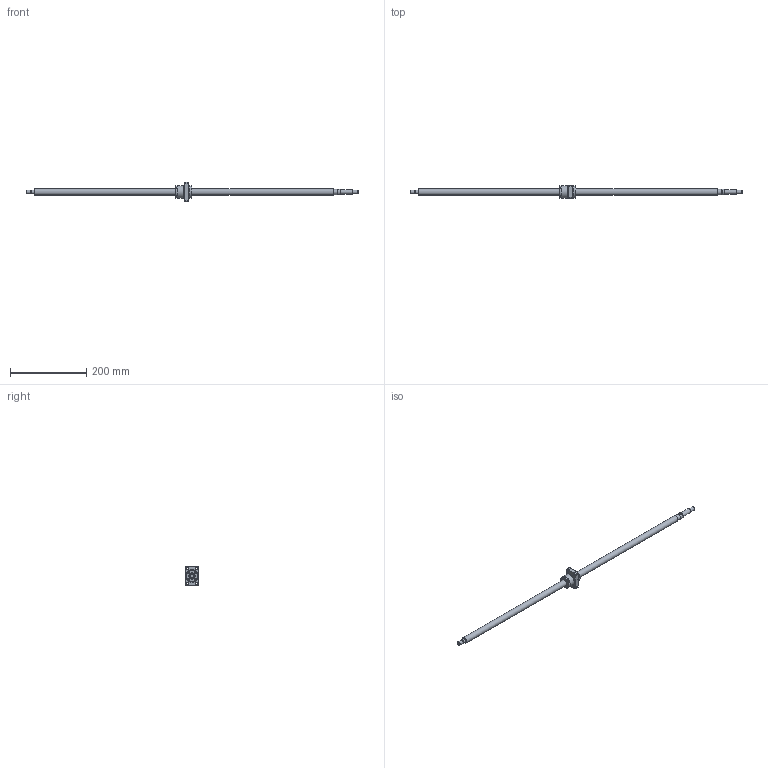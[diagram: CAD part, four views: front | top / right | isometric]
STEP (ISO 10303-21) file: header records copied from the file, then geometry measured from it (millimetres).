
FILE_DESCRIPTION(/* description */ ('STEP AP203'),/* implementation_level */ '2;1');
FILE_NAME(/* name */ 'BNK1616-3.6G0+871LC5Y(4130)',/* time_stamp */ '2024-07-09T09:31:10+02:00',/* author */ ('License CC BY-ND 4.0'),/* organization */ ('CADENAS'),/* preprocessor_version */ 'ST-DEVELOPER v19.3',/* originating_system */ 'PARTsolutions',/* authorisation */ ' ');
FILE_SCHEMA (('CONFIG_CONTROL_DESIGN'));
Length unit declared in the file: millimetre
Products named in the file (3): BNK1616-3.6G0+871LC5Y(4130); BNK 1616-3.6G0+871LC5Y Shaft; BNK 1616-3.6G0+871LC5Y0 Nut
Assembly tree (2 placements, depth 2):
  BNK1616-3.6G0+871LC5Y(4130)
    BNK 1616-3.6G0+871LC5Y Shaft
    BNK 1616-3.6G0+871LC5Y0 Nut
Bounding box: 871 x 34 x 50 mm (x, y, z)
Volume: 198450.3 mm3; surface area: 54396.8 mm2
Topology: 2 solids, 2 shells, 136 faces, 312 edges, 202 vertices
Faces by surface type: plane 75, cylinder 35, cone 20, torus 6
Full cylindrical faces by diameter (mm): 5.188 x1, 5.5 x8, 9.5 x4, 9.6 x1, 10 x3, 12 x1, 14 x1, 15 x1, 16 x2, 28.8 x1, 31.8 x2, 32 x2
Entity records: 3705 total; most frequent: CARTESIAN_POINT 676, DIRECTION 626, ORIENTED_EDGE 530, EDGE_CURVE 265, AXIS2_PLACEMENT_3D 247, FACE_BOUND 210, EDGE_LOOP 209, VERTEX_POINT 197
